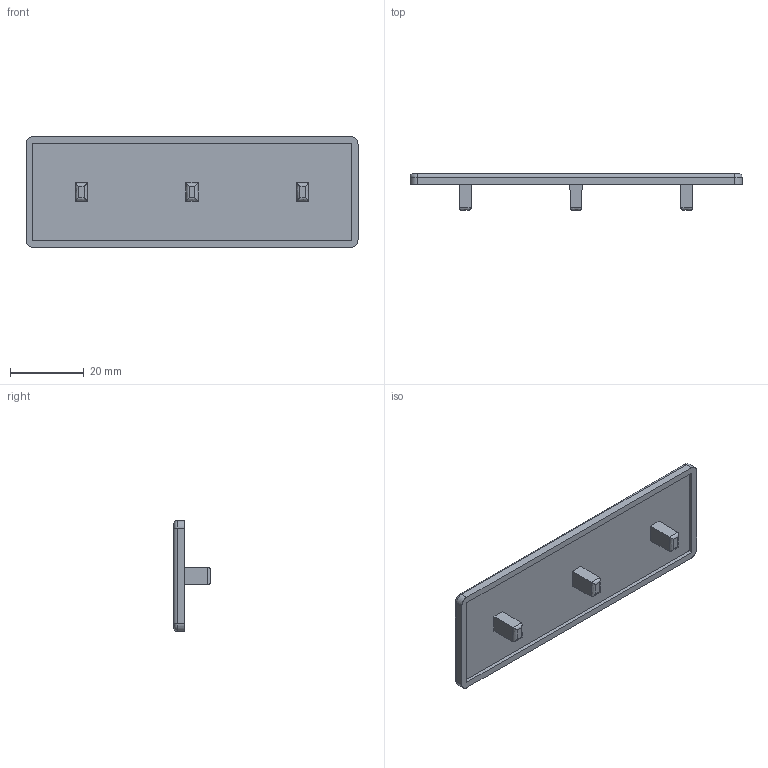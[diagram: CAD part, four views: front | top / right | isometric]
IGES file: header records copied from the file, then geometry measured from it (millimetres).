
Start section: SolidWorks IGES file using analytic representation for surfaces
Global section: file name: C:\Users\admin\Desktop\IGES\J3C9.igs; native system: SolidWorks 2014; preprocessor: SolidWorks 2014; author: admin_pc; date: 170524.165417; units: millimetre
Bounding box: 90 x 10 x 30 mm (x, y, z)
Surface area: 6590.8 mm2 (no closed solid volume)
Topology: 0 solids, 0 shells, 54 faces, 424 edges, 424 vertices
Faces by surface type: bspline 30, revolution 24
